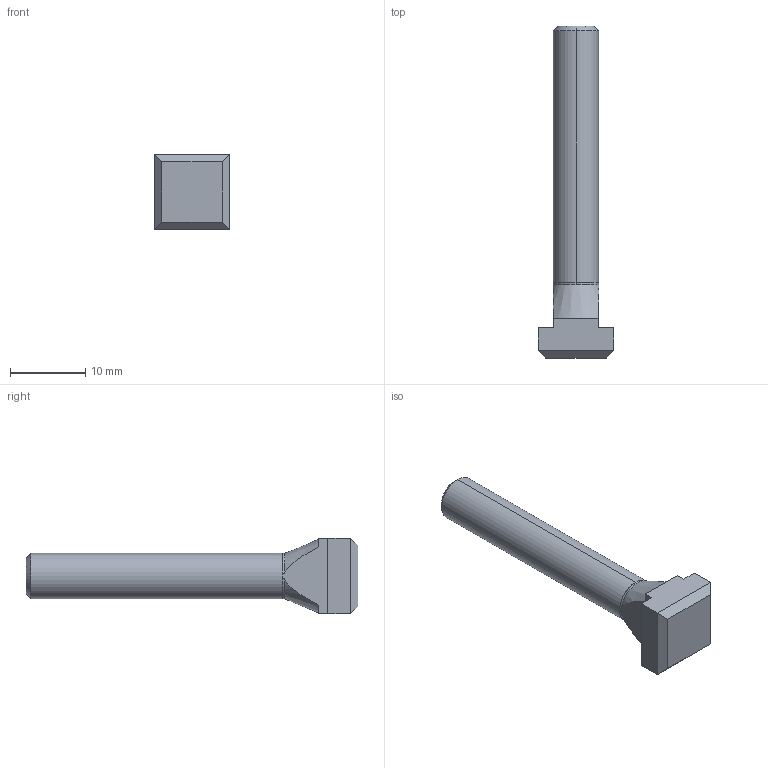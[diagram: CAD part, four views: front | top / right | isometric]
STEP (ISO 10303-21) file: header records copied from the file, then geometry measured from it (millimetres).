
FILE_DESCRIPTION (( 'STEP AP203' ), '1' );
FILE_NAME ('Wiberger-din787_6-m6x40.step', '2016-07-01T13:16:49', ( 'Magnus' ), ( 'Microsoft' ), 'SwSTEP 2.0', 'SolidWorks 2016', '' );
FILE_SCHEMA (( 'CONFIG_CONTROL_DESIGN' ));
Length unit declared in the file: millimetre
Products named in the file (1): Wiberger-din787_6-m6x40
Bounding box: 10 x 44 x 10 mm (x, y, z)
Volume: 1609.8 mm3; surface area: 1099 mm2
Topology: 1 solids, 1 shells, 28 faces, 70 edges, 44 vertices
Faces by surface type: plane 18, cone 5, cylinder 5
Entity records: 953 total; most frequent: CARTESIAN_POINT 207, ORIENTED_EDGE 140, DIRECTION 138, EDGE_CURVE 70, AXIS2_PLACEMENT_3D 47, LINE 44, VERTEX_POINT 44, VECTOR 44
